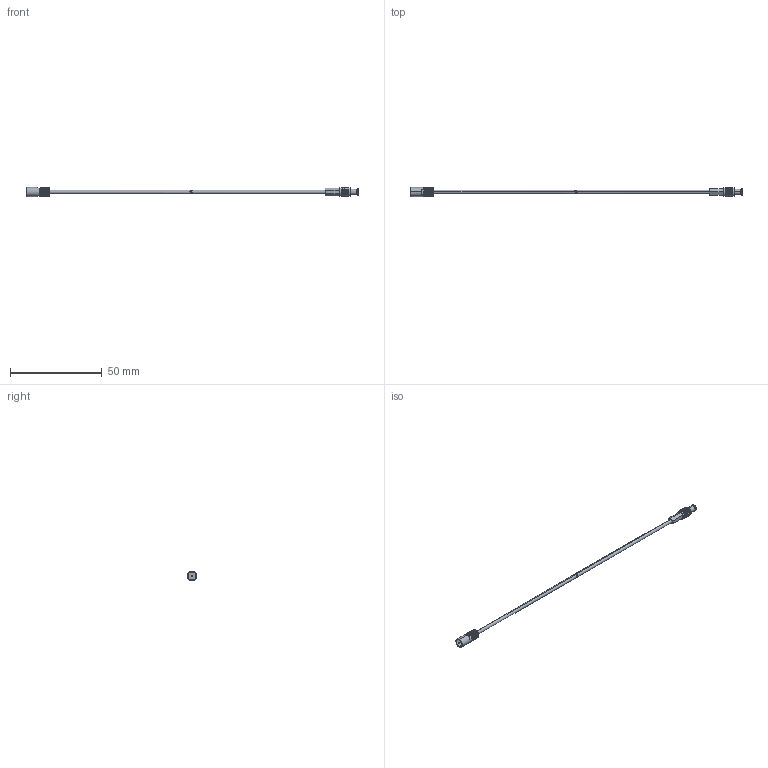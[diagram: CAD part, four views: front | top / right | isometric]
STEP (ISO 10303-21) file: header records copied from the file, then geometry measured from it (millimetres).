
FILE_DESCRIPTION (( 'STEP AP214' ), '1' );
FILE_NAME ('C-PZ-1645 Cable.STEP', '2018-02-21T16:18:18', ( '' ), ( '' ), 'SwSTEP 2.0', 'SolidWorks 2017', '' );
FILE_SCHEMA (( 'AUTOMOTIVE_DESIGN' ));
Length unit declared in the file: millimetre
Products named in the file (1): C-PZ-1645 Cable
Bounding box: 180.7 x 5.08 x 5.08 mm (x, y, z)
Volume: 811.8 mm3; surface area: 1654.8 mm2
Topology: 2 solids, 2 shells, 101 faces, 235 edges, 154 vertices
Faces by surface type: cylinder 59, plane 38, cone 2, bspline 2
Entity records: 5066 total; most frequent: CARTESIAN_POINT 1722, ORIENTED_EDGE 470, DIRECTION 444, EDGE_CURVE 235, AXIS2_PLACEMENT_3D 175, VERTEX_POINT 154, EDGE_LOOP 117, UNCERTAINTY_MEASURE_WITH_UNIT 105
